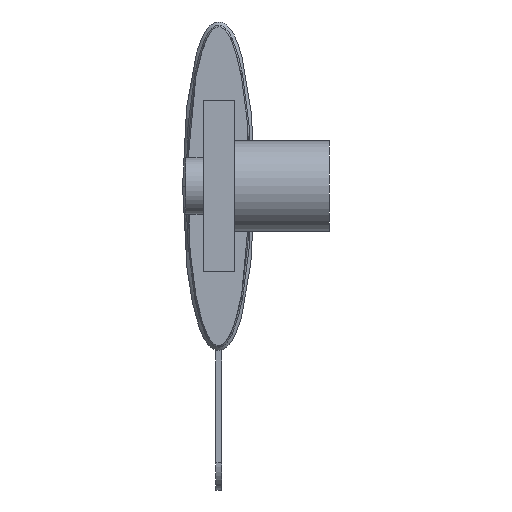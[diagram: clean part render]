
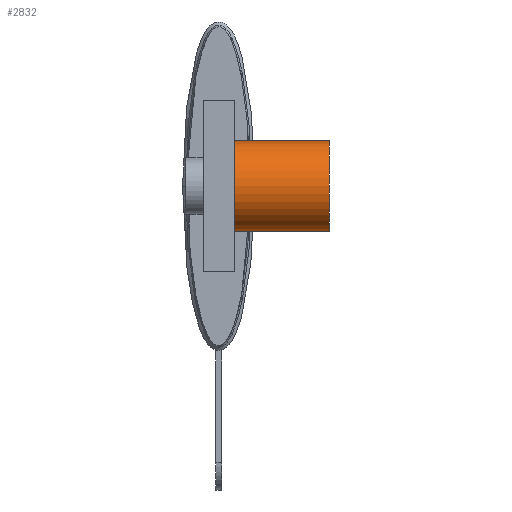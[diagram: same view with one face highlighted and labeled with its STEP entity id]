
A CAD part, left-side view. The second image highlights one B-rep face of the part: STEP entity #2832.
In plain terms, the highlighted cylindrical face has radius 3.97 mm (diameter 7.94 mm), a partial arc.
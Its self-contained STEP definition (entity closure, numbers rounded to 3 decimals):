
#151 = CIRCLE ( 'NONE', #155, 3.97 ) ;
#155 = AXIS2_PLACEMENT_3D ( 'NONE', #2254, #4951, #4947 ) ;
#293 = VECTOR ( 'NONE', #3933, 1000. ) ;
#313 = EDGE_LOOP ( 'NONE', ( #2169, #2178, #2179, #2185 ) ) ;
#523 = CARTESIAN_POINT ( 'NONE',  ( -85.725, -1.375, 3.97 ) ) ;
#661 = CARTESIAN_POINT ( 'NONE',  ( -85.725, -9.735, -3.97 ) ) ;
#743 = VERTEX_POINT ( 'NONE', #3559 ) ;
#1278 = CIRCLE ( 'NONE', #1283, 3.97 ) ;
#1283 = AXIS2_PLACEMENT_3D ( 'NONE', #2898, #2889, #2886 ) ;
#2169 = ORIENTED_EDGE ( 'NONE', *, *, #5233, .F. ) ;
#2178 = ORIENTED_EDGE ( 'NONE', *, *, #5773, .T. ) ;
#2179 = ORIENTED_EDGE ( 'NONE', *, *, #3343, .T. ) ;
#2185 = ORIENTED_EDGE ( 'NONE', *, *, #3190, .T. ) ;
#2254 = CARTESIAN_POINT ( 'NONE',  ( -85.725, -1.375, 0. ) ) ;
#2520 = VERTEX_POINT ( 'NONE', #661 ) ;
#2570 = VERTEX_POINT ( 'NONE', #523 ) ;
#2832 = ADVANCED_FACE ( 'NONE', ( #6006 ), #6002, .T. ) ;
#2886 = DIRECTION ( 'NONE',  ( 0., 0., 1. ) ) ;
#2889 = DIRECTION ( 'NONE',  ( 0., 1., 0. ) ) ;
#2898 = CARTESIAN_POINT ( 'NONE',  ( -85.725, -9.735, 0. ) ) ;
#3166 = VECTOR ( 'NONE', #3448, 1000. ) ;
#3190 = EDGE_CURVE ( 'NONE', #2570, #3998, #151, .T. ) ;
#3343 = EDGE_CURVE ( 'NONE', #743, #2570, #3941, .T. ) ;
#3448 = DIRECTION ( 'NONE',  ( 0., 1., 0. ) ) ;
#3451 = CARTESIAN_POINT ( 'NONE',  ( -85.725, -31.375, -3.97 ) ) ;
#3460 = LINE ( 'NONE', #3451, #3166 ) ;
#3559 = CARTESIAN_POINT ( 'NONE',  ( -85.725, -9.735, 3.97 ) ) ;
#3933 = DIRECTION ( 'NONE',  ( 0., 1., 0. ) ) ;
#3938 = CARTESIAN_POINT ( 'NONE',  ( -85.725, -31.375, 3.97 ) ) ;
#3941 = LINE ( 'NONE', #3938, #293 ) ;
#3998 = VERTEX_POINT ( 'NONE', #6384 ) ;
#4947 = DIRECTION ( 'NONE',  ( 0., 0., 1. ) ) ;
#4951 = DIRECTION ( 'NONE',  ( 0., -1., 0. ) ) ;
#5233 = EDGE_CURVE ( 'NONE', #2520, #3998, #3460, .T. ) ;
#5554 = AXIS2_PLACEMENT_3D ( 'NONE', #6000, #5997, #5995 ) ;
#5773 = EDGE_CURVE ( 'NONE', #2520, #743, #1278, .T. ) ;
#5995 = DIRECTION ( 'NONE',  ( 0., 0., 1. ) ) ;
#5997 = DIRECTION ( 'NONE',  ( 0., 1., 0. ) ) ;
#6000 = CARTESIAN_POINT ( 'NONE',  ( -85.725, -31.375, 0. ) ) ;
#6002 = CYLINDRICAL_SURFACE ( 'NONE', #5554, 3.97 ) ;
#6006 = FACE_OUTER_BOUND ( 'NONE', #313, .T. ) ;
#6384 = CARTESIAN_POINT ( 'NONE',  ( -85.725, -1.375, -3.97 ) ) ;
